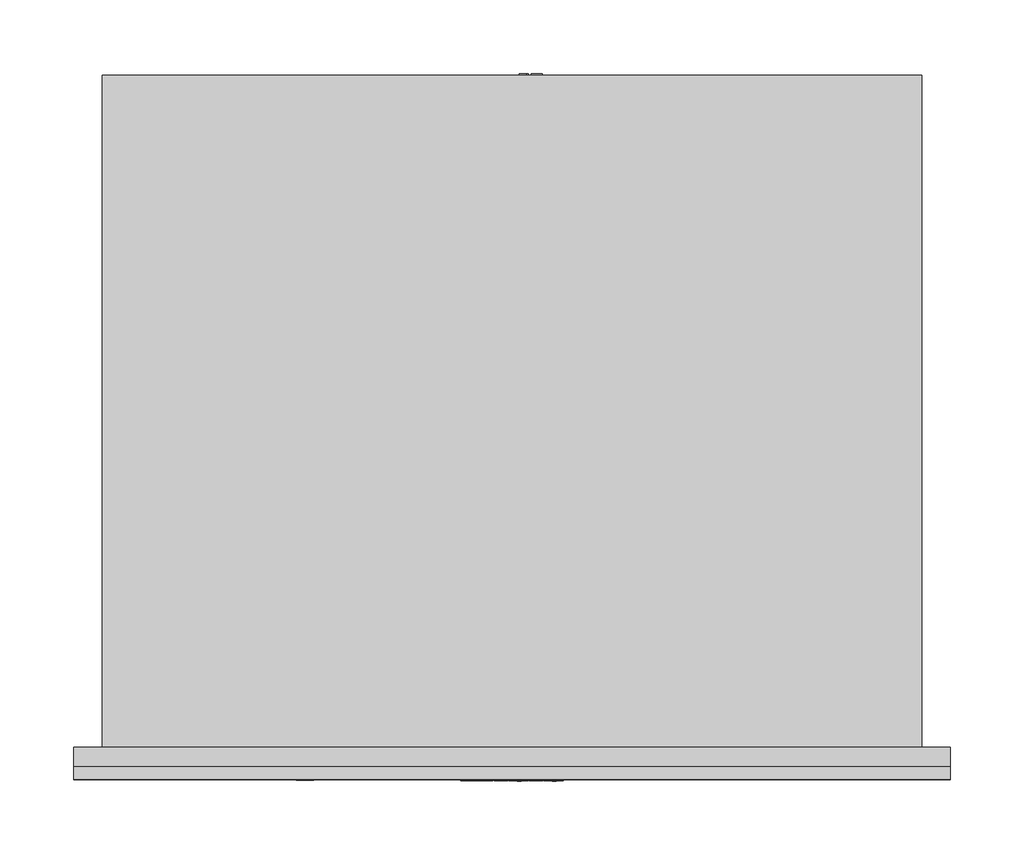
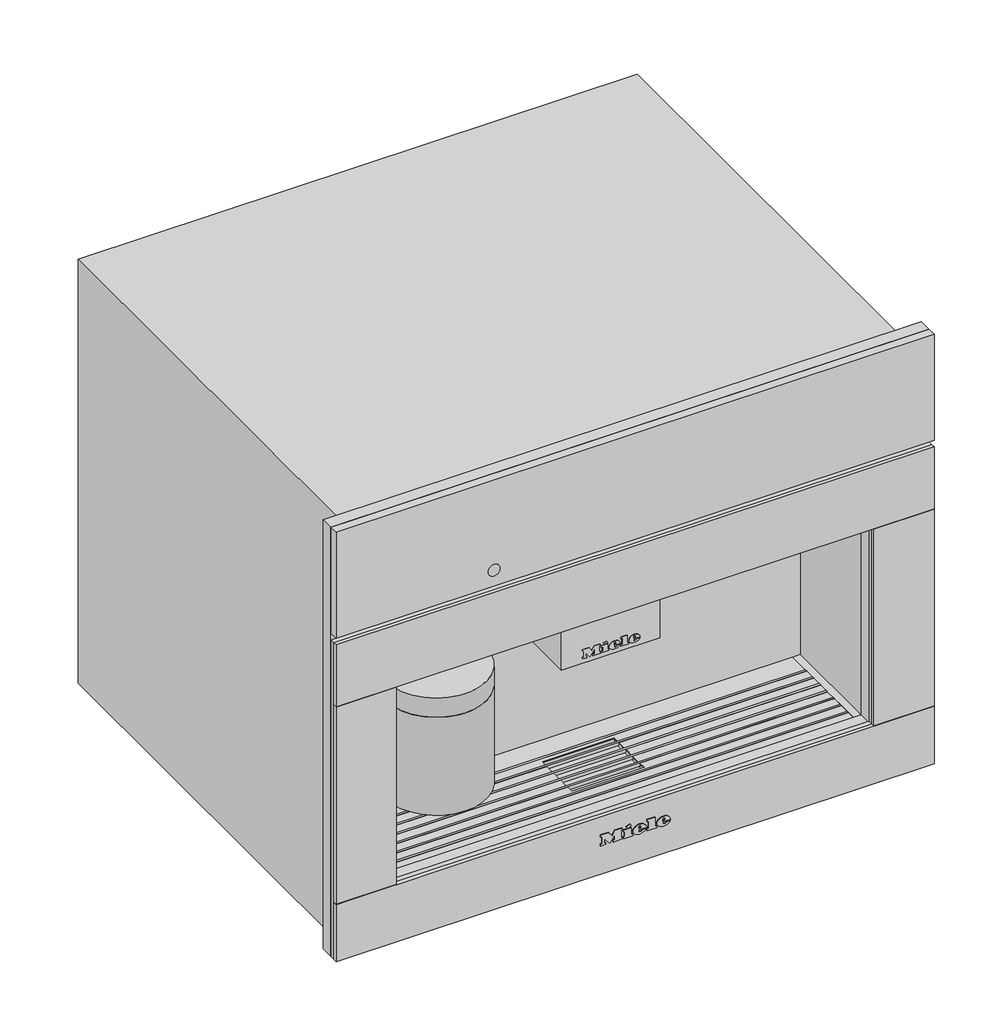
# Not in any storey: 1 proxy.
"""IFC4 building model written with IfcOpenShell, lengths in millimetres."""

from ifc_helpers import new_model, si_unit, origin, place, context, project, spatial, transform, mapped, element, save
from components import specialty_equipment_c3889a7f

model = new_model("IFC4")

# Units and contexts
model_context = context("Model", 3, world=origin())
ifc_project = project(units=[si_unit("LENGTHUNIT", "METRE", prefix="MILLI")], contexts=[model_context])

# Site, building
site = spatial("IfcSite", under=ifc_project)
building = spatial("IfcBuilding", under=site)

# Proxy
placement = place(None, origin())
specialty_equipment_shape = specialty_equipment_c3889a7f(model_context)
element("IfcBuildingElementProxy", 1, Name="11166090_TR_CVA7440_GRGR : 29744030_TR_11166090_CVA7440_GRGR", ObjectType="11166090_TR_CVA7440_GRGR : 29744030_TR_11166090_CVA7440_GRGR", at=placement, inside=building, context=model_context, shape_type="MappedRepresentation", body=[
    mapped(specialty_equipment_shape, transform((0.0, 0.0, 0.0), x_axis=(1.0, 0.0, 0.0), y_axis=(0.0, 1.0, 0.0), z_axis=(0.0, 0.0, 1.0))),
])

save(model, "model.ifc")
